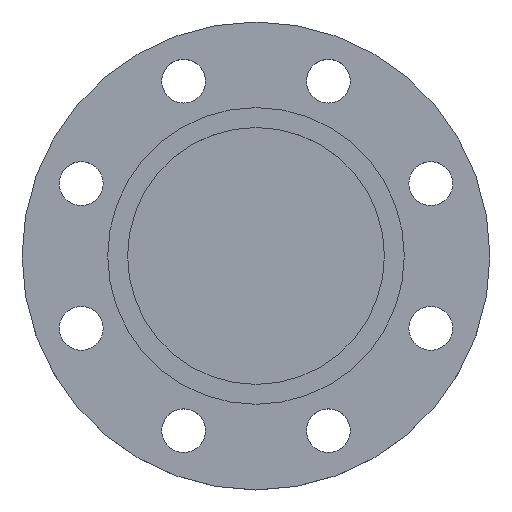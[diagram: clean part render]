
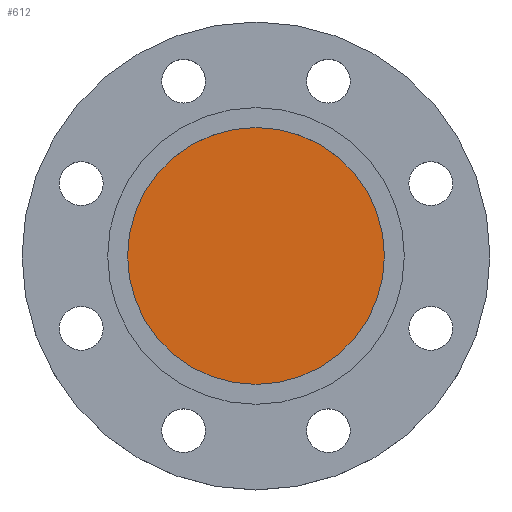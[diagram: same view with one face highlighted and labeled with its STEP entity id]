
A CAD part, top view. The second image highlights one B-rep face of the part: STEP entity #612.
In plain terms, the highlighted planar face has unit normal (0, 0, 1).
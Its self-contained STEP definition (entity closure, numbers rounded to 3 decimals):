
#40 = CIRCLE ( 'NONE', #48, 64.5 ) ;
#48 = AXIS2_PLACEMENT_3D ( 'NONE', #173, #176, #174 ) ;
#52 = CIRCLE ( 'NONE', #70, 64.5 ) ;
#70 = AXIS2_PLACEMENT_3D ( 'NONE', #133, #129, #128 ) ;
#128 = DIRECTION ( 'NONE',  ( -1., 0., 0. ) ) ;
#129 = DIRECTION ( 'NONE',  ( 0., 0., -1. ) ) ;
#133 = CARTESIAN_POINT ( 'NONE',  ( 0., 0., -5. ) ) ;
#173 = CARTESIAN_POINT ( 'NONE',  ( 0., 0., -5. ) ) ;
#174 = DIRECTION ( 'NONE',  ( -1., 0., 0. ) ) ;
#176 = DIRECTION ( 'NONE',  ( 0., 0., -1. ) ) ;
#184 = CARTESIAN_POINT ( 'NONE',  ( 64.5, 0., -5. ) ) ;
#187 = CARTESIAN_POINT ( 'NONE',  ( -64.5, 0., -5. ) ) ;
#206 = DIRECTION ( 'NONE',  ( 1., 0., 0. ) ) ;
#207 = DIRECTION ( 'NONE',  ( 0., 0., 1. ) ) ;
#208 = CARTESIAN_POINT ( 'NONE',  ( 64.5, 0., -5. ) ) ;
#209 = PLANE ( 'NONE',  #688 ) ;
#210 = FACE_OUTER_BOUND ( 'NONE', #670, .T. ) ;
#612 = ADVANCED_FACE ( 'NONE', ( #210 ), #209, .T. ) ;
#665 = VERTEX_POINT ( 'NONE', #184 ) ;
#670 = EDGE_LOOP ( 'NONE', ( #758, #759 ) ) ;
#688 = AXIS2_PLACEMENT_3D ( 'NONE', #208, #207, #206 ) ;
#692 = VERTEX_POINT ( 'NONE', #187 ) ;
#702 = EDGE_CURVE ( 'NONE', #692, #665, #40, .T. ) ;
#730 = EDGE_CURVE ( 'NONE', #665, #692, #52, .T. ) ;
#758 = ORIENTED_EDGE ( 'NONE', *, *, #702, .F. ) ;
#759 = ORIENTED_EDGE ( 'NONE', *, *, #730, .F. ) ;
